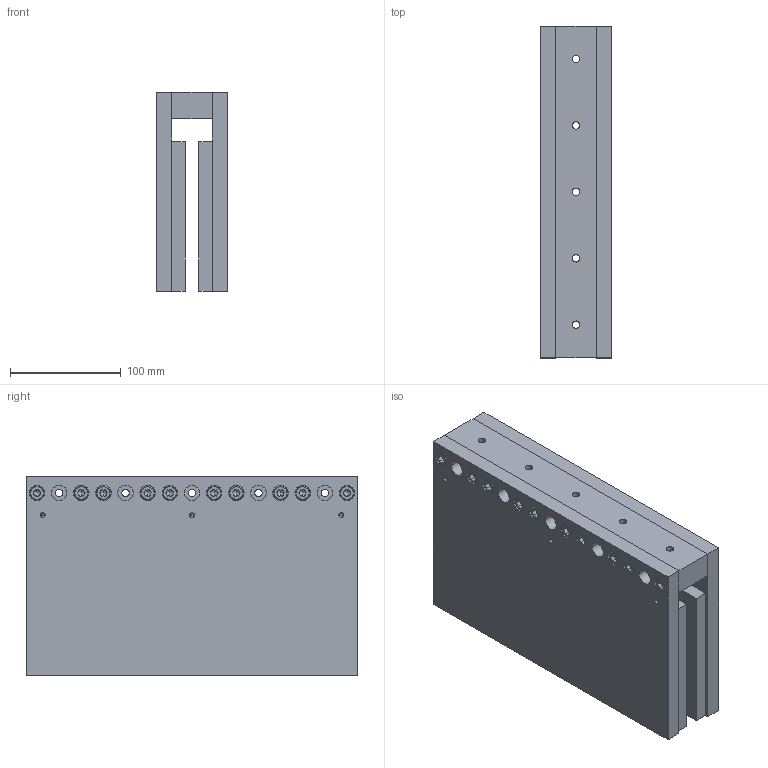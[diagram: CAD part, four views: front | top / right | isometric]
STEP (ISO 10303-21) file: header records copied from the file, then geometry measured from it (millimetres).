
FILE_DESCRIPTION (( 'STEP AP203' ), '1' );
FILE_NAME ('DX140F-TL300.step', '2021-01-04T11:08:48', ( '' ), ( '' ), 'SwSTEP 2.0', 'SolidWorks 2020', '' );
FILE_SCHEMA (( 'CONFIG_CONTROL_DESIGN' ));
Length unit declared in the file: millimetre
Products named in the file (1): DX140F-TL300
Bounding box: 64.5 x 299.5 x 180 mm (x, y, z)
Volume: 2683099.1 mm3; surface area: 307698.2 mm2
Topology: 1 solids, 31 shells, 780 faces, 1778 edges, 1056 vertices
Faces by surface type: plane 356, cylinder 252, cone 132, torus 40
Entity records: 21579 total; most frequent: DIRECTION 4012, CARTESIAN_POINT 3683, ORIENTED_EDGE 3452, EDGE_CURVE 1726, AXIS2_PLACEMENT_3D 1545, VERTEX_POINT 1056, VECTOR 922, LINE 922
